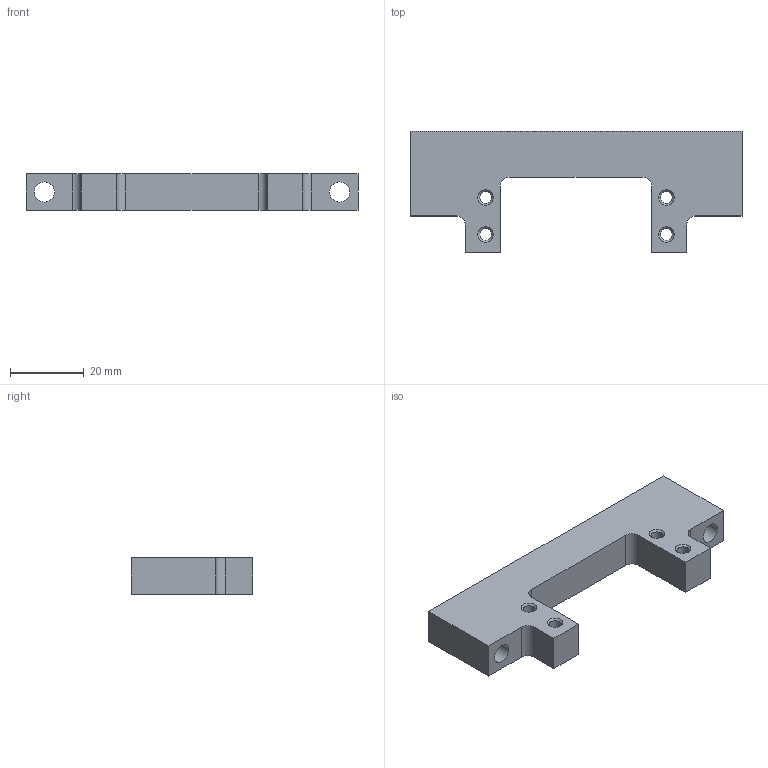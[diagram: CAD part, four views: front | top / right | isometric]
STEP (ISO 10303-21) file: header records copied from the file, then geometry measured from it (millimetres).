
FILE_DESCRIPTION(('STEP AP203'), '1');
FILE_NAME('ÒÏÏÔ1801.01.08.00.002 - Îïîðà ñåðâîìàøèíêè', '', ('UNSPECIFIED'), ('UNSPECIFIED'), 'C3D Converter', 'C3D Toolkit', '');
FILE_SCHEMA(('CONFIG_CONTROL_DESIGN'));
Length unit declared in the file: millimetre
Products named in the file (1): ТППФ1801.01.08.00.002
Bounding box: 90 x 33 x 10 mm (x, y, z)
Volume: 16919.9 mm3; surface area: 7527.3 mm2
Topology: 1 solids, 1 shells, 28 faces, 74 edges, 48 vertices
Faces by surface type: plane 14, cylinder 10, cone 4
Full cylindrical faces by diameter (mm): 3.242 x4, 5.5 x2
Entity records: 1108 total; most frequent: DIRECTION 146, CARTESIAN_POINT 141, ORIENTED_EDGE 128, EDGE_CURVE 64, AXIS2_PLACEMENT_3D 53, EDGE_LOOP 50, VERTEX_POINT 48, LINE 40
